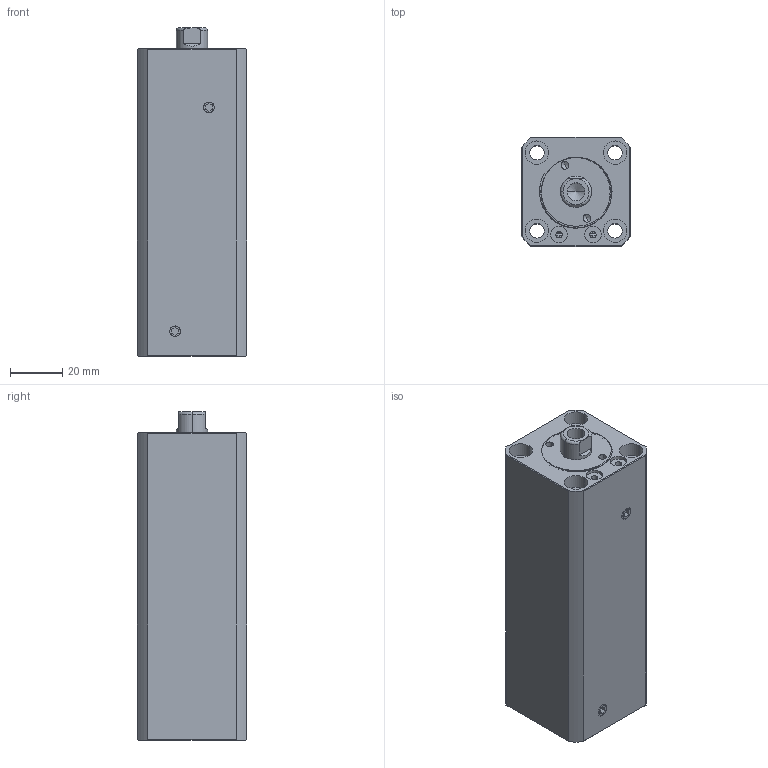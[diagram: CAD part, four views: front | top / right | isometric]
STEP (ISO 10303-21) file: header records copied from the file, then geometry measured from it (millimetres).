
FILE_DESCRIPTION (( 'STEP AP214' ), '1' );
FILE_NAME ('chtb-sdma20x75n_asm.STEP', '2018-05-18T06:43:39', ( '' ), ( '' ), 'SwSTEP 2.0', 'SolidWorks 2016', '' );
FILE_SCHEMA (( 'AUTOMOTIVE_DESIGN' ));
Length unit declared in the file: millimetre
Products named in the file (5): socket set screw flat point_iso_ISO 4026 - M5 x 5-N; QG_3; CHTB-SDMA20X75NHSG; CHTB-SDMA20X75NBT; chtb-sdma20x75n_asm
Assembly tree (5 placements, depth 2):
  chtb-sdma20x75n_asm
    CHTB-SDMA20X75NBT
    CHTB-SDMA20X75NHSG
    QG_3
    socket set screw flat point_iso_ISO 4026 - M5 x 5-N  x2
Bounding box: 42 x 42 x 126 mm (x, y, z)
Volume: 174234.9 mm3; surface area: 50137.1 mm2
Topology: 5 solids, 5 shells, 232 faces, 602 edges, 396 vertices
Faces by surface type: cylinder 111, plane 61, torus 25, bspline 21, cone 14
Entity records: 12042 total; most frequent: CARTESIAN_POINT 6742, ORIENTED_EDGE 1128, DIRECTION 1000, EDGE_CURVE 564, AXIS2_PLACEMENT_3D 415, VERTEX_POINT 376, EDGE_LOOP 256, ADVANCED_FACE 217
